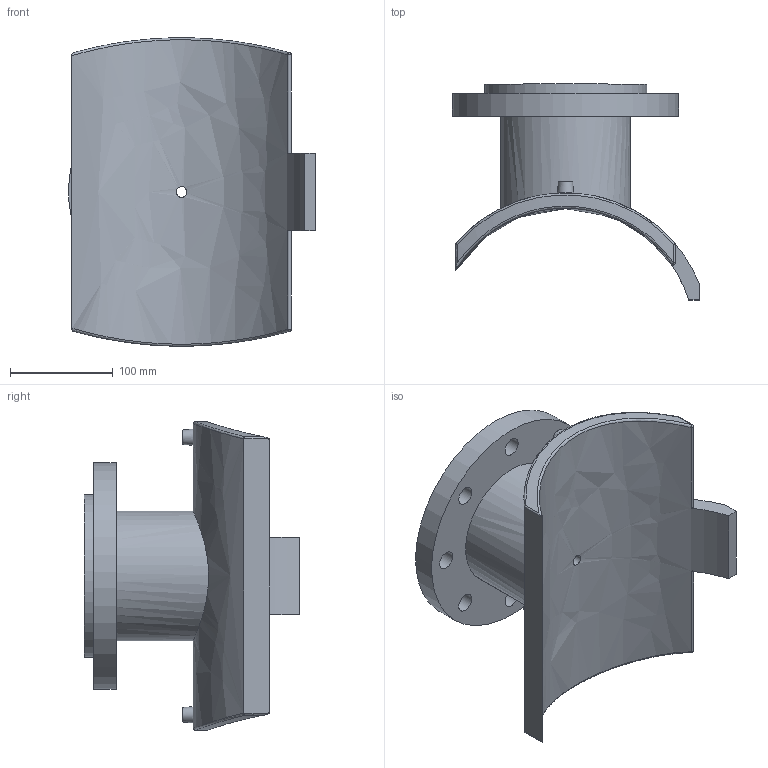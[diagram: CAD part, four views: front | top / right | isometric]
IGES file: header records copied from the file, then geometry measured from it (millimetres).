
Global section: file name: 495903250100T; native system: Autodesk Inventor 2019; preprocessor: unknown; author: KIM; date: 20240403.205959; units: millimetre
Bounding box: 240.27 x 209.92 x 299.96 mm (x, y, z)
Volume: 2222430.2 mm3; surface area: 323362.2 mm2
Topology: 1 solids, 1 shells, 58 faces, 151 edges, 118 vertices
Faces by surface type: bspline 58
